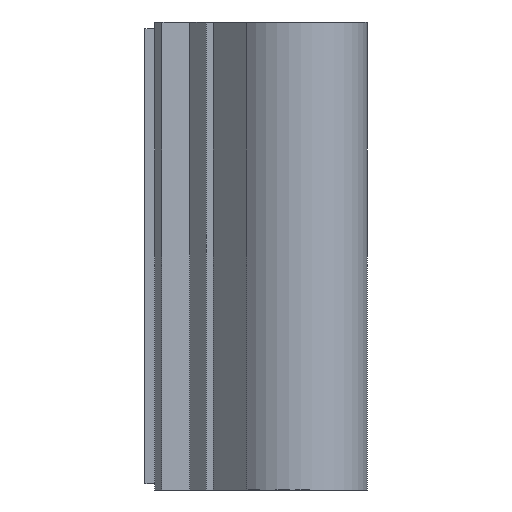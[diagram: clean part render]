
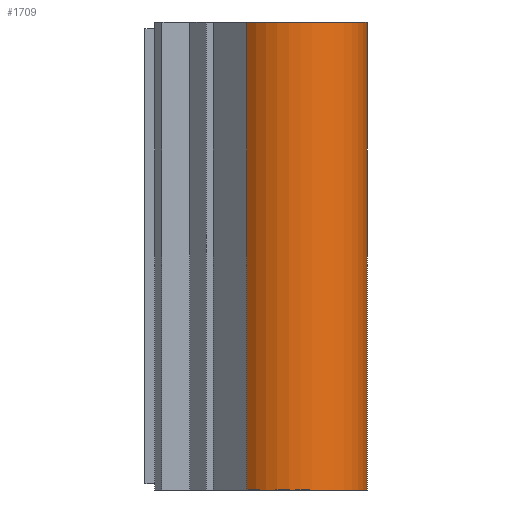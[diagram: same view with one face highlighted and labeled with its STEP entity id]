
A CAD part, front view. The second image highlights one B-rep face of the part: STEP entity #1709.
In plain terms, the highlighted cylindrical face has radius 54.235 mm (diameter 108.47 mm), a partial arc.
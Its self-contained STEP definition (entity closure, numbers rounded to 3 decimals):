
#352=TRIMMED_CURVE($,#635,(#14324),(#14325),.T.,.CARTESIAN.);
#353=TRIMMED_CURVE($,#636,(#14329),(#14330),.T.,.CARTESIAN.);
#635=CIRCLE('',#9514,54.235);
#636=CIRCLE('',#9515,54.235);
#1709=ADVANCED_FACE('',(#2081),#9134,.F.);
#2081=FACE_OUTER_BOUND('',#2466,.T.);
#2466=EDGE_LOOP('',(#3203,#3204,#3205,#3206));
#3203=ORIENTED_EDGE('',*,*,#4859,.F.);
#3204=ORIENTED_EDGE('',*,*,#4860,.F.);
#3205=ORIENTED_EDGE('',*,*,#4861,.F.);
#3206=ORIENTED_EDGE('',*,*,#4858,.F.);
#4858=EDGE_CURVE('',#7863,#7866,#6538,.T.);
#4859=EDGE_CURVE('',#7864,#7863,#352,.T.);
#4860=EDGE_CURVE('',#7865,#7864,#6539,.T.);
#4861=EDGE_CURVE('',#7866,#7865,#353,.T.);
#6538=B_SPLINE_CURVE_WITH_KNOTS('',1,(#14321,#14322),.UNSPECIFIED.,.F.,
 .F.,(2,2),(0.,1.),.UNSPECIFIED.);
#6539=B_SPLINE_CURVE_WITH_KNOTS('',1,(#14326,#14327),.UNSPECIFIED.,.F.,
 .F.,(2,2),(3.356,4.356),.UNSPECIFIED.);
#7863=VERTEX_POINT('',#14317);
#7864=VERTEX_POINT('',#14318);
#7865=VERTEX_POINT('',#14319);
#7866=VERTEX_POINT('',#14320);
#9134=CYLINDRICAL_SURFACE('',#9513,54.235);
#9513=AXIS2_PLACEMENT_3D('',#14316,#10267,$);
#9514=AXIS2_PLACEMENT_3D($,#14323,#10268,#10269);
#9515=AXIS2_PLACEMENT_3D($,#14328,#10270,#10271);
#10267=DIRECTION('',(0.,0.,-1.));
#10268=DIRECTION('',(0.,0.,1.));
#10269=DIRECTION('',(-0.707,-0.707,0.));
#10270=DIRECTION('',(0.,0.,-1.));
#10271=DIRECTION('',(1.,0.,0.));
#14316=CARTESIAN_POINT('',(74.963,35.492,0.));
#14317=CARTESIAN_POINT('',(129.199,35.492,-180.));
#14318=CARTESIAN_POINT('',(36.613,-2.858,-180.));
#14319=CARTESIAN_POINT('',(36.613,-2.858,180.));
#14320=CARTESIAN_POINT('',(129.199,35.492,180.));
#14321=CARTESIAN_POINT('',(129.199,35.492,-180.));
#14322=CARTESIAN_POINT('',(129.199,35.492,180.));
#14323=CARTESIAN_POINT('',(74.963,35.492,-180.));
#14324=CARTESIAN_POINT('',(36.613,-2.858,-180.));
#14325=CARTESIAN_POINT('',(129.199,35.492,-180.));
#14326=CARTESIAN_POINT('',(36.613,-2.858,180.));
#14327=CARTESIAN_POINT('',(36.613,-2.858,-180.));
#14328=CARTESIAN_POINT('',(74.963,35.492,180.));
#14329=CARTESIAN_POINT('',(129.199,35.492,180.));
#14330=CARTESIAN_POINT('',(36.613,-2.858,180.));
